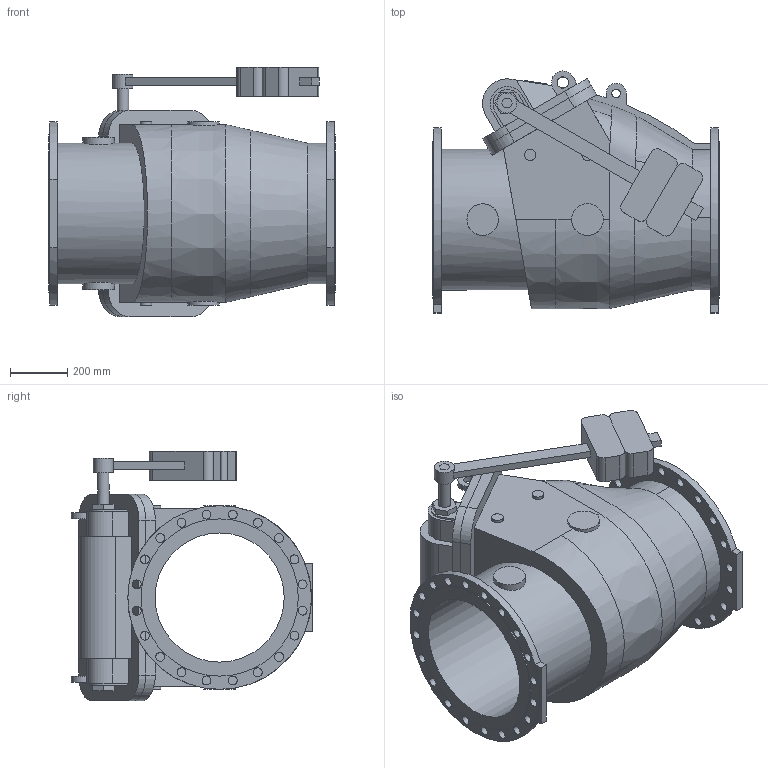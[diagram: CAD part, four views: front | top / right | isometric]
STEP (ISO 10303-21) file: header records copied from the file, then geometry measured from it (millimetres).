
FILE_DESCRIPTION (( 'STEP AP203' ), '1' );
FILE_NAME ('O_41_36_DN450_X1XXX_AA0.step', '2018-08-16T08:38:07', ( 'Windows User' ), ( 'AVK' ), 'SwSTEP 2.0', 'SolidWorks 2012', '' );
FILE_SCHEMA (( 'CONFIG_CONTROL_DESIGN' ));
Length unit declared in the file: millimetre
Products named in the file (1): O_41_36_DN450_X1XXX_AA0
Bounding box: 1000 x 842.73 x 870 mm (x, y, z)
Volume: 164633509.2 mm3; surface area: 5035631.5 mm2
Topology: 1 solids, 1 shells, 296 faces, 836 edges, 570 vertices
Faces by surface type: plane 191, cylinder 93, bspline 12
Full cylindrical faces by diameter (mm): 30 x1, 31 x40, 40 x7, 70 x1, 110 x4, 450 x1, 490 x1, 548 x2, 640 x2
Entity records: 21356 total; most frequent: CARTESIAN_POINT 13941, ORIENTED_EDGE 1456, DIRECTION 1419, EDGE_CURVE 728, VERTEX_POINT 522, AXIS2_PLACEMENT_3D 475, EDGE_LOOP 474, LINE 469
